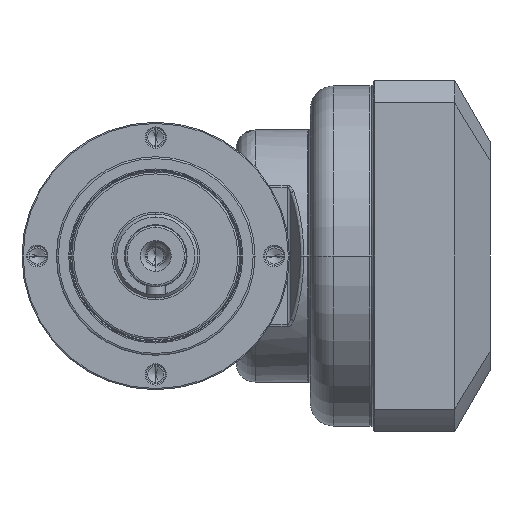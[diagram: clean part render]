
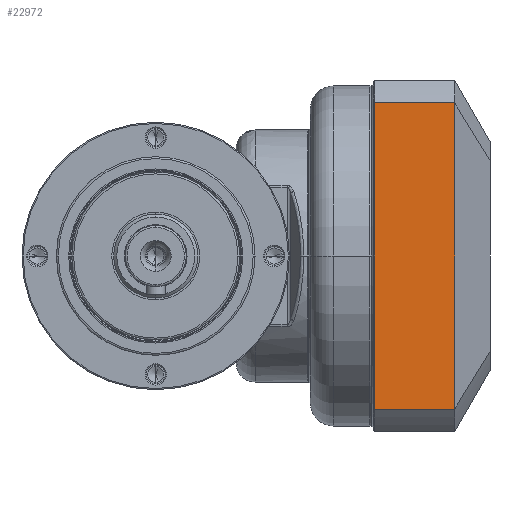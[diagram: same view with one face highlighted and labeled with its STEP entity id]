
A CAD part, left-side view. The second image highlights one B-rep face of the part: STEP entity #22972.
In plain terms, the highlighted planar face has unit normal (-1, 0, 0) as drawn and (0, -1, 0) by its records, which use the part's own axes.
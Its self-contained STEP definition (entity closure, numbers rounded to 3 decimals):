
#21735=DIRECTION('',(1.,0.,0.));
#21736=VECTOR('',#21735,80.125);
#21737=CARTESIAN_POINT('',(-40.062,-46.,23.762));
#21738=LINE('',#21737,#21736);
#21739=DIRECTION('',(0.,0.,1.));
#21740=VECTOR('',#21739,20.962);
#21741=CARTESIAN_POINT('',(40.062,-46.,
2.8));
#21742=LINE('',#21741,#21740);
#21743=DIRECTION('',(1.,0.,0.));
#21744=VECTOR('',#21743,80.125);
#21745=CARTESIAN_POINT('',(-40.062,-46.,
2.8));
#21746=LINE('',#21745,#21744);
#21747=DIRECTION('',(0.,0.,1.));
#21748=VECTOR('',#21747,20.962);
#21749=CARTESIAN_POINT('',(-40.062,-46.,
2.8));
#21750=LINE('',#21749,#21748);
#21756=CARTESIAN_POINT('',(40.062,-46.,23.762));
#22071=CARTESIAN_POINT('',(-40.062,-46.,2.8));
#22073=VERTEX_POINT('',#22071);
#22076=CARTESIAN_POINT('',(40.062,-46.,
2.8));
#22077=VERTEX_POINT('',#22076);
#22123=CARTESIAN_POINT('',(-40.062,-46.,23.762));
#22125=VERTEX_POINT('',#22123);
#22133=VERTEX_POINT('',#21756);
#22960=CARTESIAN_POINT('',(-46.,-46.,0.));
#22961=DIRECTION('',(0.,-1.,0.));
#22962=DIRECTION('',(1.,0.,0.));
#22963=AXIS2_PLACEMENT_3D('',#22960,#22961,#22962);
#22964=PLANE('',#22963);
#22966=ORIENTED_EDGE('',*,*,#22965,.T.);
#22967=ORIENTED_EDGE('',*,*,#22876,.F.);
#22968=ORIENTED_EDGE('',*,*,#22954,.F.);
#22969=ORIENTED_EDGE('',*,*,#22887,.T.);
#22970=EDGE_LOOP('',(#22966,#22967,#22968,#22969));
#22971=FACE_OUTER_BOUND('',#22970,.F.);
#22972=ADVANCED_FACE('',(#22971),#22964,.T.);
#22876=EDGE_CURVE('',#22077,#22133,#21742,.T.);
#22887=EDGE_CURVE('',#22073,#22125,#21750,.T.);
#22954=EDGE_CURVE('',#22073,#22077,#21746,.T.);
#22965=EDGE_CURVE('',#22125,#22133,#21738,.T.);
